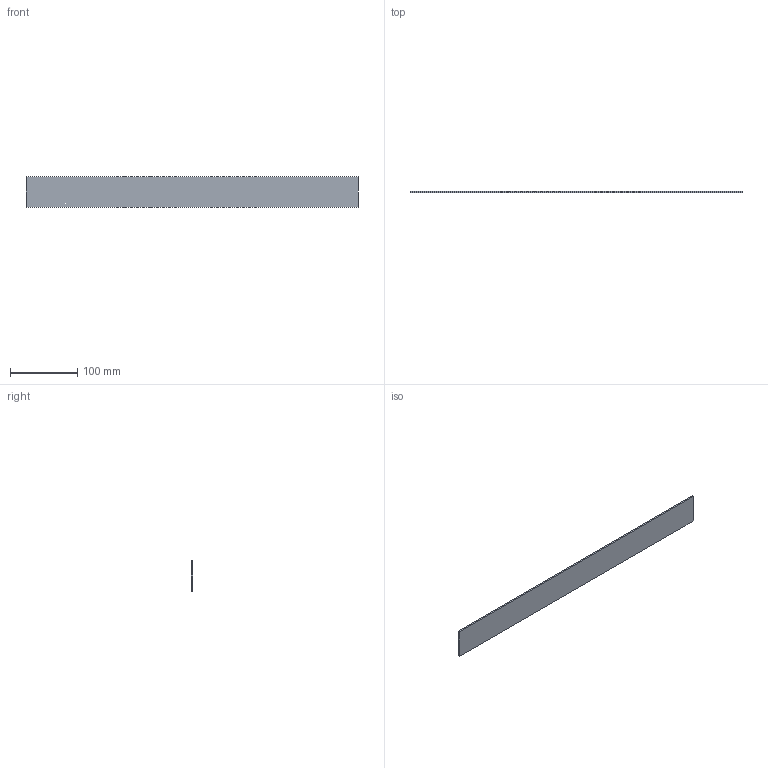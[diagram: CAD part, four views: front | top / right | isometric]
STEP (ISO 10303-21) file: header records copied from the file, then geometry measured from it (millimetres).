
FILE_DESCRIPTION(('Open CASCADE Model'),'2;1');
FILE_NAME('Open CASCADE Shape Model','2026-11-20T22:44:44',('Author'),( 'Open CASCADE'),'Open CASCADE STEP processor 7.8','Open CASCADE 7.8' ,'Unknown');
FILE_SCHEMA(('AUTOMOTIVE_DESIGN { 1 0 10303 214 1 1 1 1 }'));
Length unit declared in the file: millimetre
Products named in the file (1): Open CASCADE STEP translator 7.8 7
Bounding box: 495 x 2.5 x 45 mm (x, y, z)
Volume: 55687.5 mm3; surface area: 47250 mm2
Topology: 1 solids, 1 shells, 6 faces, 12 edges, 8 vertices
Faces by surface type: plane 6
Entity records: 322 total; most frequent: CARTESIAN_POINT 51, DIRECTION 50, LINE 36, VECTOR 36, ORIENTED_EDGE 24, PCURVE 24, DEFINITIONAL_REPRESENTATION 24, EDGE_CURVE 12
